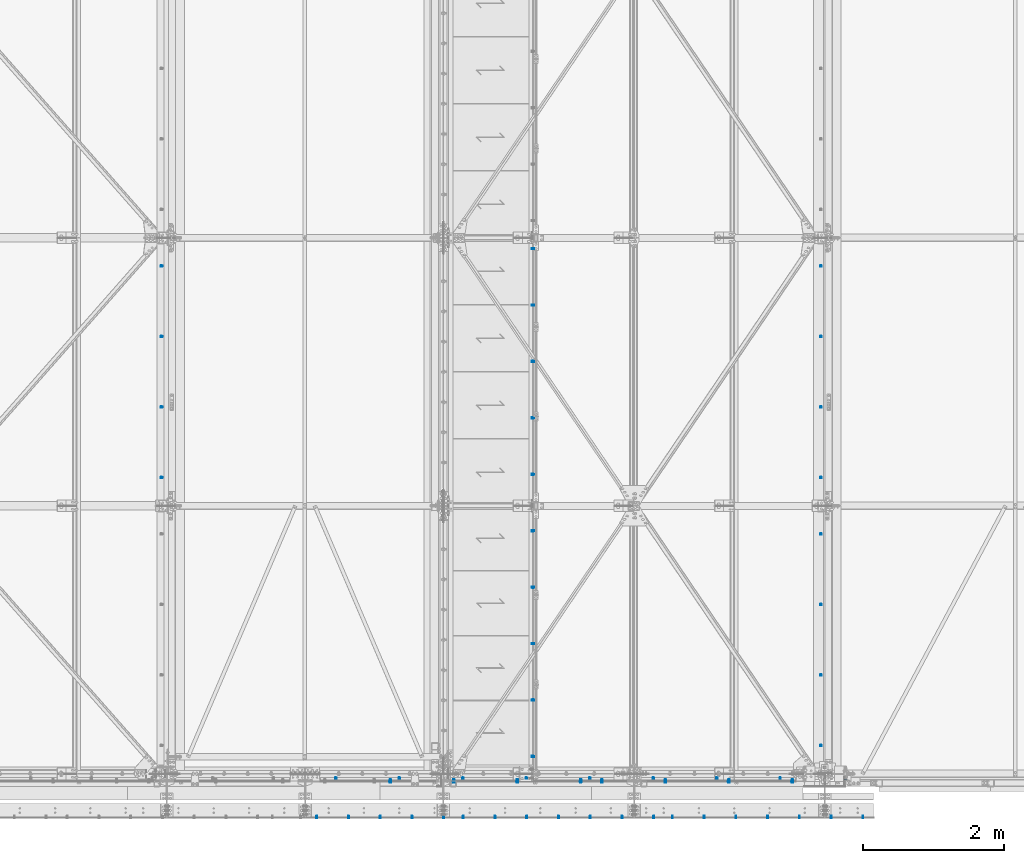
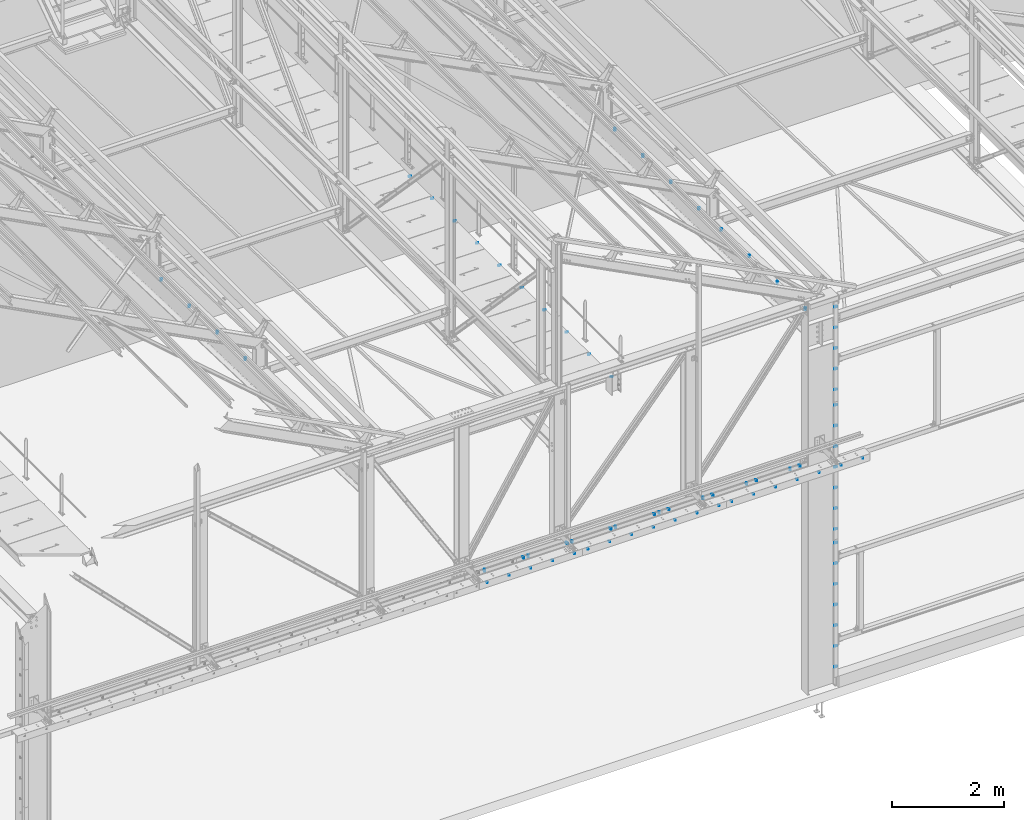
# One storey, part 135 of 362: 13 mechanical fasteners.
"""IFC2X3 building model written with IfcOpenShell, lengths in millimetres."""

from ifc_helpers import new_model, si_unit, frame, frame_2d, origin_with_axes, origin_2d_with_axis, place, context, subcontext, project, spatial, polyline, circle_curve, parameter, trimmed, segment, composite_curve, circle, outline, extrude, source, transform, mapped, material, type_object, element, save


model = new_model("IFC2X3")

# Units and contexts
model_context = context("Model", 3, precision=1e-05, world=origin_with_axes())
body_context = subcontext(model_context, "Body", "Model", "MODEL_VIEW")
ifc_project = project(units=[si_unit("LENGTHUNIT", "METRE", prefix="MILLI"), si_unit("AREAUNIT", "SQUARE_METRE"), si_unit("VOLUMEUNIT", "CUBIC_METRE"), si_unit("MASSUNIT", "GRAM", prefix="KILO"), si_unit("TIMEUNIT", "SECOND"), si_unit("PLANEANGLEUNIT", "RADIAN"), si_unit("SOLIDANGLEUNIT", "STERADIAN"), si_unit("THERMODYNAMICTEMPERATUREUNIT", "DEGREE_CELSIUS"), si_unit("LUMINOUSINTENSITYUNIT", "LUMEN")], contexts=[model_context])

# Site, building, storey
site_placement = place(None, origin_with_axes())
site = spatial("IfcSite", under=ifc_project, at=site_placement, Name="Undefined", CompositionType="ELEMENT")
building_placement = place(site_placement, origin_with_axes())
building = spatial("IfcBuilding", under=site, at=building_placement, Name="Undefined", CompositionType="ELEMENT")
storey_placement = place(building_placement, origin_with_axes())
storey = spatial("IfcBuildingStorey", under=building, at=storey_placement, Name="Undefined", CompositionType="ELEMENT", Elevation=0.0)

# Mechanical fasteners
ifc_material_1 = material(Name="6.8")
mechanical_fastener_type = type_object("IfcMechanicalFastenerType", Name="Bolt assembly")
shared_shape_1 = source(origin_with_axes(), body_context, "Body", "SweptSolid", [
    extrude(circle(Radius=5.0, at=origin_2d_with_axis()), frame((0.0, 0.1, 0.0), z_axis=(0.0, 1.0, 0.0), x_axis=(1.0, 0.0, 0.0)), (0.0, 0.0, 1.0), 4.0),
    extrude(circle(Radius=5.0, at=origin_2d_with_axis()), frame((0.0, 3.9, 0.0), z_axis=(0.0, 1.0, 0.0), x_axis=(1.0, 0.0, 0.0)), (0.0, 0.0, 1.0), 11.0),
    extrude(outline(polyline([(7.50555349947, 0.0), (3.752776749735, 6.50000000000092), (-3.752776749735, 6.50000000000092), (-7.50555349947, 0.0), (-3.752776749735, -6.50000000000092), (3.752776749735, -6.50000000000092), (7.50555349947, 0.0)])), frame((0.0, -5.5, 0.0), z_axis=(0.0, 1.0, 0.0), x_axis=(1.0, 0.0, 0.0)), (0.0, 0.0, 1.0), 5.5),
    extrude(circle(Radius=4.0, at=origin_2d_with_axis()), frame((0.0, 0.0, 0.0), z_axis=(0.0, 1.0, 0.0), x_axis=(1.0, 0.0, 0.0)), (0.0, 0.0, 1.0), 30.0),
    extrude(outline(polyline([(7.50555349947, 0.0), (3.752776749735, 6.50000000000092), (-3.752776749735, 6.50000000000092), (-7.50555349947, 0.0), (-3.752776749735, -6.50000000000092), (3.752776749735, -6.50000000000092), (7.50555349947, 0.0)])), frame((0.0, 14.9002807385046, 0.0), z_axis=(0.0, 1.0, 0.0), x_axis=(1.0, 0.0, 0.0)), (0.0, 0.0, 1.0), 6.8),
])
mechanical_fastener_1_placement = place(storey_placement, frame((22577.5000029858, -624.0, 5185.00175461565), z_axis=(-1.0, 0.0, 0.0), x_axis=(0.0, 0.0, 1.0)))
element("IfcMechanicalFastener", 1, at=mechanical_fastener_1_placement, inside=storey, type_object=mechanical_fastener_type, material=ifc_material_1, Name="Bolt assembly", NominalDiameter=8.0, NominalLength=30.0, context=body_context, shape_type="MappedRepresentation", body=[
    mapped(shared_shape_1, transform((0.0, 0.0, -900.0))),
    mapped(shared_shape_1, transform((0.0, 0.0, -450.0))),
    mapped(shared_shape_1, transform((0.0, 0.0, 0.0))),
    mapped(shared_shape_1, transform((0.0, 0.0, 450.0))),
    mapped(shared_shape_1, transform((0.0, 0.0, 900.0))),
])
shared_shape_2 = source(origin_with_axes(), body_context, "Body", "SweptSolid", [
    extrude(circle(Radius=5.0, at=origin_2d_with_axis()), frame((0.0, 0.1, 0.0), z_axis=(0.0, 1.0, 0.0), x_axis=(1.0, 0.0, 0.0)), (0.0, 0.0, 1.0), 4.0),
    extrude(circle(Radius=5.0, at=origin_2d_with_axis()), frame((0.0, 3.9, 0.0), z_axis=(0.0, 1.0, 0.0), x_axis=(1.0, 0.0, 0.0)), (0.0, 0.0, 1.0), 11.0),
    extrude(outline(polyline([(7.50555349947, 0.0), (3.752776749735, 6.50000000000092), (-3.752776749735, 6.50000000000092), (-7.50555349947, 0.0), (-3.752776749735, -6.50000000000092), (3.752776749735, -6.50000000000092), (7.50555349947, 0.0)])), frame((0.0, -5.5, 0.0), z_axis=(0.0, 1.0, 0.0), x_axis=(1.0, 0.0, 0.0)), (0.0, 0.0, 1.0), 5.5),
    extrude(circle(Radius=4.0, at=origin_2d_with_axis()), frame((0.0, 0.0, 0.0), z_axis=(0.0, 1.0, 0.0), x_axis=(1.0, 0.0, 0.0)), (0.0, 0.0, 1.0), 30.0),
    extrude(outline(polyline([(7.50555349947, 0.0), (3.752776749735, 6.50000000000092), (-3.752776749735, 6.50000000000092), (-7.50555349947, 0.0), (-3.752776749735, -6.50000000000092), (3.752776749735, -6.50000000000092), (7.50555349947, 0.0)])), frame((0.0, 14.9, 0.0), z_axis=(0.0, 1.0, 0.0), x_axis=(1.0, 0.0, 0.0)), (0.0, 0.0, 1.0), 6.8),
])
for number, where, z_axis, x_axis, name in (
    (2, (25105.0000089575, -624.0, 5184.99824538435), (-1.0, 0.0, 0.0), (0.0, 0.0, 1.0), "Bolt assembly"),
    (3, (28070.0000029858, -624.0, 5184.99824538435), (-1.0, 0.0, 0.0), (0.0, 0.0, 1.0), "Bolt assembly"),
):
    element("IfcMechanicalFastener", number, at=place(storey_placement, frame(where, z_axis=z_axis, x_axis=x_axis)), inside=storey, type_object=mechanical_fastener_type, material=ifc_material_1, Name=name, NominalDiameter=8.0, NominalLength=30.0, context=body_context, shape_type="MappedRepresentation", body=[
        mapped(shared_shape_2, transform((0.0, 0.0, -1350.0))),
        mapped(shared_shape_2, transform((0.0, 0.0, -900.0))),
        mapped(shared_shape_2, transform((0.0, 0.0, -450.0))),
        mapped(shared_shape_2, transform((0.0, 0.0, 0.0))),
        mapped(shared_shape_2, transform((0.0, 0.0, 450.0))),
        mapped(shared_shape_2, transform((0.0, 0.0, 900.0))),
        mapped(shared_shape_2, transform((0.0, 0.0, 1350.0))),
    ])
ifc_material_2 = material(Name="6.8-SB-ZINGUE")
shared_shape_3 = source(origin_with_axes(), body_context, "Body", "SweptSolid", [
    extrude(circle(Radius=7.0, at=origin_2d_with_axis()), frame((0.0, -9.90077615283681, 0.0), z_axis=(0.0, 1.0, 0.0), x_axis=(1.0, 0.0, 0.0)), (0.0, 0.0, 1.0), 10.0),
    extrude(circle(Radius=7.0, at=origin_2d_with_axis()), frame((0.0, -0.100011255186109, 0.0), z_axis=(0.0, 1.0, 0.0), x_axis=(1.0, 0.0, 0.0)), (0.0, 0.0, 1.0), 7.1),
    extrude(outline(polyline([(10.39230484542, 0.0), (5.19615242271, 9.00000000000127), (-5.19615242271, 9.00000000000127), (-10.39230484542, 0.0), (-5.19615242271, -9.00000000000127), (5.19615242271, -9.00000000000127), (10.39230484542, 0.0)])), frame((0.0, -17.9207761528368, 0.0), z_axis=(0.0, 1.0, 0.0), x_axis=(1.0, 0.0, 0.0)), (0.0, 0.0, 1.0), 7.92),
    extrude(circle(Radius=6.0, at=origin_2d_with_axis()), frame((0.0, -10.0007761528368, 0.0), z_axis=(0.0, 1.0, 0.0), x_axis=(1.0, 0.0, 0.0)), (0.0, 0.0, 1.0), 40.0),
    extrude(outline(polyline([(11.5008173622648, 0.0), (5.7504086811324, 9.96000000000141), (-5.7504086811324, 9.96000000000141), (-11.5008173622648, 0.0), (-5.7504086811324, -9.96000000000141), (5.7504086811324, -9.96000000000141), (11.5008173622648, 0.0)])), frame((0.0, 7.0, 0.0), z_axis=(0.0, 1.0, 0.0), x_axis=(1.0, 0.0, 0.0)), (0.0, 0.0, 1.0), 7.92),
])
mechanical_fastener_2_placement = place(storey_placement, frame((25097.500629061, -59.9984678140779, 5010.00085614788), z_axis=(-1.0, 0.0, 0.0), x_axis=(0.0, -1.0, 0.0)))
element("IfcMechanicalFastener", 4, at=mechanical_fastener_2_placement, inside=storey, type_object=mechanical_fastener_type, material=ifc_material_2, Name="Bolt assembly", NominalDiameter=12.0, NominalLength=40.0, context=body_context, shape_type="MappedRepresentation", body=[
    mapped(shared_shape_3, transform((0.0, 0.0, -3150.0))),
    mapped(shared_shape_3, transform((0.0, 0.0, -2250.0))),
    mapped(shared_shape_3, transform((0.0, 0.0, -1350.0))),
    mapped(shared_shape_3, transform((0.0, 0.0, -450.0))),
    mapped(shared_shape_3, transform((0.0, 0.0, 450.0))),
    mapped(shared_shape_3, transform((0.0, 0.0, 1350.0))),
    mapped(shared_shape_3, transform((0.0, 0.0, 2250.0))),
    mapped(shared_shape_3, transform((0.0, 0.0, 3150.0))),
])
ifc_material_3 = material(Name="8.8-SB-ZINGUE")
shared_shape_4 = source(origin_with_axes(), body_context, "Body", "SweptSolid", [
    extrude(circle(Radius=7.0, at=origin_2d_with_axis()), frame((0.0, -0.0984788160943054, 0.0), z_axis=(0.0, 1.0, 0.0), x_axis=(1.0, 0.0, 0.0)), (0.0, 0.0, 1.0), 7.1),
    extrude(circle(Radius=7.0, at=origin_2d_with_axis()), frame((0.0, -10.0000010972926, 0.0), z_axis=(0.0, 1.0, 0.0), x_axis=(1.0, 0.0, 0.0)), (0.0, 0.0, 1.0), 10.0),
    extrude(outline(composite_curve([segment(polyline([(7.0, 7.0), (7.0, -7.0)]), True, "CONTINUOUS"), segment(trimmed(circle_curve(frame_2d((0.0, -7.0), x_axis=(1.0, 0.0)), 7.0), [parameter(0.0)], [parameter(3.14159265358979)], False, "PARAMETER"), True, "CONTINUOUS"), segment(polyline([(-7.0, -7.0), (-7.0, 7.0)]), True, "CONTINUOUS"), segment(trimmed(circle_curve(frame_2d((0.0, 7.0), x_axis=(-1.0, 0.0)), 7.0), [parameter(0.0)], [parameter(3.14159265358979)], False, "PARAMETER"), True, "DISCONTINUOUS")], self_intersect=False)), frame((0.0, -12.9000010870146, 0.0), z_axis=(0.0, 1.0, 0.0), x_axis=(1.0, 0.0, 0.0)), (0.0, 0.0, 1.0), 3.0),
    extrude(outline(polyline([(10.39230484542, 0.0), (5.19615242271, 9.00000000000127), (-5.19615242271, 9.00000000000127), (-10.39230484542, 0.0), (-5.19615242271, -9.00000000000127), (5.19615242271, -9.00000000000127), (10.39230484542, 0.0)])), frame((0.0, -24.8800010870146, 0.0), z_axis=(0.0, 1.0, 0.0), x_axis=(1.0, 0.0, 0.0)), (0.0, 0.0, 1.0), 7.92),
    extrude(circle(Radius=6.0, at=origin_2d_with_axis()), frame((0.0, -16.9600010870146, 0.0), z_axis=(0.0, 1.0, 0.0), x_axis=(1.0, 0.0, 0.0)), (0.0, 0.0, 1.0), 40.0),
    extrude(circle(Radius=10.8, at=origin_2d_with_axis()), frame((0.0, -16.9600010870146, 0.0), z_axis=(0.0, 1.0, 0.0), x_axis=(1.0, 0.0, 0.0)), (0.0, 0.0, 1.0), 3.96),
    extrude(outline(polyline([(11.5008173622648, 0.0), (5.7504086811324, 9.96000000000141), (-5.7504086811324, 9.96000000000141), (-11.5008173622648, 0.0), (-5.7504086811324, -9.96000000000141), (5.7504086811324, -9.96000000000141), (11.5008173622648, 0.0)])), frame((0.0, 7.00152118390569, 0.0), z_axis=(0.0, 1.0, 0.0), x_axis=(1.0, 0.0, 0.0)), (0.0, 0.0, 1.0), 7.92),
])
mechanical_fastener_3_placement = place(storey_placement, frame((24070.0, -99.9999976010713, 5050.00085614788), z_axis=(1.0, 0.0, 0.0), x_axis=(0.0, 0.0, -1.0)))
element("IfcMechanicalFastener", 5, at=mechanical_fastener_3_placement, inside=storey, type_object=mechanical_fastener_type, material=ifc_material_3, Name="Bolt assembly", NominalDiameter=12.0, NominalLength=40.0, context=body_context, shape_type="MappedRepresentation", body=[
    mapped(shared_shape_4, transform((0.0, 0.0, -1350.0))),
    mapped(shared_shape_4, transform((0.0, 0.0, -450.0))),
    mapped(shared_shape_4, transform((0.0, 0.0, 450.0))),
    mapped(shared_shape_4, transform((0.0, 0.0, 1350.0))),
])
shared_shape_5 = source(origin_with_axes(), body_context, "Body", "SweptSolid", [
    extrude(circle(Radius=7.0, at=origin_2d_with_axis()), frame((0.0, -0.0984788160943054, 0.0), z_axis=(0.0, 1.0, 0.0), x_axis=(1.0, 0.0, 0.0)), (0.0, 0.0, 1.0), 7.1),
    extrude(circle(Radius=7.0, at=origin_2d_with_axis()), frame((0.0, -10.0000010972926, 0.0), z_axis=(0.0, 1.0, 0.0), x_axis=(1.0, 0.0, 0.0)), (0.0, 0.0, 1.0), 10.0),
    extrude(outline(composite_curve([segment(polyline([(7.0, 7.0), (7.0, -7.0)]), True, "CONTINUOUS"), segment(trimmed(circle_curve(frame_2d((0.0, -7.0), x_axis=(1.0, 0.0)), 7.0), [parameter(0.0)], [parameter(3.14159265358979)], False, "PARAMETER"), True, "CONTINUOUS"), segment(polyline([(-7.0, -7.0), (-7.0, 7.0)]), True, "CONTINUOUS"), segment(trimmed(circle_curve(frame_2d((0.0, 7.0), x_axis=(-1.0, 0.0)), 7.0), [parameter(0.0)], [parameter(3.14159265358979)], False, "PARAMETER"), True, "DISCONTINUOUS")], self_intersect=False)), frame((0.0, -12.9000010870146, 0.0), z_axis=(0.0, 1.0, 0.0), x_axis=(1.0, 0.0, 0.0)), (0.0, 0.0, 1.0), 3.0),
    extrude(outline(polyline([(10.39230484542, 0.0), (5.19615242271, 9.00000000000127), (-5.19615242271, 9.00000000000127), (-10.39230484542, 0.0), (-5.19615242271, -9.00000000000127), (5.19615242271, -9.00000000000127), (10.39230484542, 0.0)])), frame((0.0, -24.8800010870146, 0.0), z_axis=(0.0, 1.0, 0.0), x_axis=(1.0, 0.0, 0.0)), (0.0, 0.0, 1.0), 7.92),
    extrude(circle(Radius=6.0, at=origin_2d_with_axis()), frame((0.0, -16.9600010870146, 0.0), z_axis=(0.0, 1.0, 0.0), x_axis=(1.0, 0.0, 0.0)), (0.0, 0.0, 1.0), 40.0),
    extrude(circle(Radius=10.8, at=origin_2d_with_axis()), frame((0.0, -16.9600010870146, 0.0), z_axis=(0.0, 1.0, 0.0), x_axis=(1.0, 0.0, 0.0)), (0.0, 0.0, 1.0), 3.96),
    extrude(outline(polyline([(11.5008173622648, 0.0), (5.7504086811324, 9.96000000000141), (-5.7504086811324, 9.96000000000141), (-11.5008173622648, 0.0), (-5.7504086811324, -9.96000000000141), (5.7504086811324, -9.96000000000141), (11.5008173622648, 0.0)])), frame((0.0, 7.00152118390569, 0.0), z_axis=(0.0, 1.0, 0.0), x_axis=(1.0, 0.0, 0.0)), (0.0, 0.0, 1.0), 7.92),
])
mechanical_fastener_4_placement = place(storey_placement, frame((27070.0, -100.000000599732, 5050.00085614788), z_axis=(1.0, 0.0, 0.0), x_axis=(0.0, 0.0, -1.0)))
element("IfcMechanicalFastener", 6, at=mechanical_fastener_4_placement, inside=storey, type_object=mechanical_fastener_type, material=ifc_material_3, Name="Bolt assembly", NominalDiameter=12.0, NominalLength=40.0, context=body_context, shape_type="MappedRepresentation", body=[
    mapped(shared_shape_5, transform((0.0, 0.0, -1350.0))),
    mapped(shared_shape_5, transform((0.0, 0.0, -450.0))),
    mapped(shared_shape_5, transform((0.0, 0.0, 450.0))),
    mapped(shared_shape_5, transform((0.0, 0.0, 1350.0))),
])
shared_shape_6 = source(origin_with_axes(), body_context, "Body", "SweptSolid", [
    extrude(circle(Radius=7.0, at=origin_2d_with_axis()), frame((0.0, -0.10007666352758, 0.0), z_axis=(0.0, 1.0, 0.0), x_axis=(1.0, 0.0, 0.0)), (0.0, 0.0, 1.0), 19.1),
    extrude(circle(Radius=7.0, at=origin_2d_with_axis()), frame((0.0, -4.90000000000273, 0.0), z_axis=(0.0, 1.0, 0.0), x_axis=(1.0, 0.0, 0.0)), (0.0, 0.0, 1.0), 5.0),
    extrude(outline(polyline([(10.39230484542, 0.0), (5.19615242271, 9.00000000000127), (-5.19615242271, 9.00000000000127), (-10.39230484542, 0.0), (-5.19615242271, -9.00000000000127), (5.19615242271, -9.00000000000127), (10.39230484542, 0.0)])), frame((0.0, -12.9200004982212, 0.0), z_axis=(0.0, 1.0, 0.0), x_axis=(1.0, 0.0, 0.0)), (0.0, 0.0, 1.0), 7.92),
    extrude(circle(Radius=6.0, at=origin_2d_with_axis()), frame((0.0, -5.00000000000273, 0.0), z_axis=(0.0, 1.0, 0.0), x_axis=(1.0, 0.0, 0.0)), (0.0, 0.0, 1.0), 40.0),
    extrude(outline(polyline([(11.5008173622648, 0.0), (5.7504086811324, 9.96000000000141), (-5.7504086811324, 9.96000000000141), (-11.5008173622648, 0.0), (-5.7504086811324, -9.96000000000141), (5.7504086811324, -9.96000000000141), (11.5008173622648, 0.0)])), frame((0.0, 18.999906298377, 0.0), z_axis=(0.0, 1.0, 0.0), x_axis=(1.0, 0.0, 0.0)), (0.0, 0.0, 1.0), 7.92),
])
mechanical_fastener_5_placement = place(storey_placement, frame((29160.9999991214, -80.0000056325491, 7340.00001636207), z_axis=(0.0, 0.0, 1.0), x_axis=(0.0, -1.0, 0.0)))
element("IfcMechanicalFastener", 7, at=mechanical_fastener_5_placement, inside=storey, type_object=mechanical_fastener_type, material=ifc_material_3, Name="Bolt assembly", NominalDiameter=12.0, NominalLength=40.0, context=body_context, shape_type="MappedRepresentation", body=[
    mapped(shared_shape_6, transform((0.0, 0.0, 900.0))),
    mapped(shared_shape_6, transform((0.0, 0.0, 450.0))),
    mapped(shared_shape_6, transform((0.0, 0.0, 0.0))),
    mapped(shared_shape_6, transform((0.0, 0.0, -450.0))),
    mapped(shared_shape_6, transform((0.0, 0.0, -900.0))),
])
shared_shape_7 = source(origin_with_axes(), body_context, "Body", "SweptSolid", [
    extrude(circle(Radius=7.0, at=origin_2d_with_axis()), frame((0.0, -0.100793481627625, 0.0), z_axis=(0.0, 1.0, 0.0), x_axis=(1.0, 0.0, 0.0)), (0.0, 0.0, 1.0), 19.1),
    extrude(circle(Radius=7.0, at=origin_2d_with_axis()), frame((0.0, -4.90000000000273, 0.0), z_axis=(0.0, 1.0, 0.0), x_axis=(1.0, 0.0, 0.0)), (0.0, 0.0, 1.0), 5.0),
    extrude(outline(polyline([(10.39230484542, 0.0), (5.19615242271, 9.00000000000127), (-5.19615242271, 9.00000000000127), (-10.39230484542, 0.0), (-5.19615242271, -9.00000000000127), (5.19615242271, -9.00000000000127), (10.39230484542, 0.0)])), frame((0.0, -12.9200004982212, 0.0), z_axis=(0.0, 1.0, 0.0), x_axis=(1.0, 0.0, 0.0)), (0.0, 0.0, 1.0), 7.92),
    extrude(circle(Radius=6.0, at=origin_2d_with_axis()), frame((0.0, -5.00000000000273, 0.0), z_axis=(0.0, 1.0, 0.0), x_axis=(1.0, 0.0, 0.0)), (0.0, 0.0, 1.0), 40.0),
    extrude(outline(polyline([(11.5008173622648, 0.0), (5.7504086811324, 9.96000000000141), (-5.7504086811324, 9.96000000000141), (-11.5008173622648, 0.0), (-5.7504086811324, -9.96000000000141), (5.7504086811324, -9.96000000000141), (11.5008173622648, 0.0)])), frame((0.0, 18.999206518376, 0.0), z_axis=(0.0, 1.0, 0.0), x_axis=(1.0, 0.0, 0.0)), (0.0, 0.0, 1.0), 7.92),
])
mechanical_fastener_6_placement = place(storey_placement, frame((29160.9999991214, -79.9999994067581, 4750.00001552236), z_axis=(0.0, 0.0, 1.0), x_axis=(0.0, -1.0, 0.0)))
element("IfcMechanicalFastener", 8, at=mechanical_fastener_6_placement, inside=storey, type_object=mechanical_fastener_type, material=ifc_material_3, Name="Bolt assembly", NominalDiameter=12.0, NominalLength=40.0, context=body_context, shape_type="MappedRepresentation", body=[
    mapped(shared_shape_7, transform((0.0, 0.0, 1350.0))),
    mapped(shared_shape_7, transform((0.0, 0.0, 900.0))),
    mapped(shared_shape_7, transform((0.0, 0.0, 450.0))),
    mapped(shared_shape_7, transform((0.0, 0.0, 0.0))),
    mapped(shared_shape_7, transform((0.0, 0.0, -450.0))),
    mapped(shared_shape_7, transform((0.0, 0.0, -900.0))),
    mapped(shared_shape_7, transform((0.0, 0.0, -1350.0))),
])
shared_shape_8 = source(origin_with_axes(), body_context, "Body", "SweptSolid", [
    extrude(circle(Radius=7.0, at=origin_2d_with_axis()), frame((0.0, -0.10176059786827, 0.0), z_axis=(0.0, 1.0, 0.0), x_axis=(1.0, 0.0, 0.0)), (0.0, 0.0, 1.0), 19.1),
    extrude(circle(Radius=7.0, at=origin_2d_with_axis()), frame((0.0, -4.90000000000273, 0.0), z_axis=(0.0, 1.0, 0.0), x_axis=(1.0, 0.0, 0.0)), (0.0, 0.0, 1.0), 5.0),
    extrude(outline(polyline([(10.39230484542, 0.0), (5.19615242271, 9.00000000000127), (-5.19615242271, 9.00000000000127), (-10.39230484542, 0.0), (-5.19615242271, -9.00000000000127), (5.19615242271, -9.00000000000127), (10.39230484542, 0.0)])), frame((0.0, -12.9200004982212, 0.0), z_axis=(0.0, 1.0, 0.0), x_axis=(1.0, 0.0, 0.0)), (0.0, 0.0, 1.0), 7.92),
    extrude(circle(Radius=6.0, at=origin_2d_with_axis()), frame((0.0, -5.00000000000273, 0.0), z_axis=(0.0, 1.0, 0.0), x_axis=(1.0, 0.0, 0.0)), (0.0, 0.0, 1.0), 40.0),
    extrude(outline(polyline([(11.5008173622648, 0.0), (5.7504086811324, 9.96000000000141), (-5.7504086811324, 9.96000000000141), (-11.5008173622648, 0.0), (-5.7504086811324, -9.96000000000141), (5.7504086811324, -9.96000000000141), (11.5008173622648, 0.0)])), frame((0.0, 18.998225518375, 0.0), z_axis=(0.0, 1.0, 0.0), x_axis=(1.0, 0.0, 0.0)), (0.0, 0.0, 1.0), 7.92),
])
mechanical_fastener_7_placement = place(storey_placement, frame((29160.9999991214, -79.9999993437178, 1750.00001560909), z_axis=(0.0, 0.0, 1.0), x_axis=(0.0, -1.0, 0.0)))
element("IfcMechanicalFastener", 9, at=mechanical_fastener_7_placement, inside=storey, type_object=mechanical_fastener_type, material=ifc_material_3, Name="Bolt assembly", NominalDiameter=12.0, NominalLength=40.0, context=body_context, shape_type="MappedRepresentation", body=[
    mapped(shared_shape_8, transform((0.0, 0.0, 1350.0))),
    mapped(shared_shape_8, transform((0.0, 0.0, 900.0))),
    mapped(shared_shape_8, transform((0.0, 0.0, 450.0))),
    mapped(shared_shape_8, transform((0.0, 0.0, 0.0))),
    mapped(shared_shape_8, transform((0.0, 0.0, -450.0))),
    mapped(shared_shape_8, transform((0.0, 0.0, -900.0))),
    mapped(shared_shape_8, transform((0.0, 0.0, -1350.0))),
])
ifc_material_4 = material(Name="#_SB-8.8-ZINGUE")
shared_shape_9 = source(origin_with_axes(), body_context, "Body", "SweptSolid", [
    extrude(circle(Radius=7.0, at=origin_2d_with_axis()), frame((0.0, -0.100011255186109, 0.0), z_axis=(0.0, 1.0, 0.0), x_axis=(1.0, 0.0, 0.0)), (0.0, 0.0, 1.0), 17.3),
    extrude(outline(composite_curve([segment(polyline([(-7.0, 7.0), (7.0, 7.0)]), True, "CONTINUOUS"), segment(trimmed(circle_curve(frame_2d((7.0, 0.0), x_axis=(0.0, 1.0)), 7.0), [parameter(0.0)], [parameter(3.14159265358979)], False, "PARAMETER"), True, "CONTINUOUS"), segment(polyline([(7.0, -7.0), (-7.0, -7.0)]), True, "CONTINUOUS"), segment(trimmed(circle_curve(frame_2d((-7.0, 0.0), x_axis=(0.0, -1.0)), 7.0), [parameter(0.0)], [parameter(3.14159265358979)], False, "PARAMETER"), True, "DISCONTINUOUS")], self_intersect=False)), frame((0.0, -1.90048839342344, 0.0), z_axis=(0.0, 1.0, 0.0), x_axis=(1.0, 0.0, 0.0)), (0.0, 0.0, 1.0), 2.0),
    extrude(outline(polyline([(10.39230484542, 0.0), (5.19615242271, 9.00000000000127), (-5.19615242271, 9.00000000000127), (-10.39230484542, 0.0), (-5.19615242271, -9.00000000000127), (5.19615242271, -9.00000000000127), (10.39230484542, 0.0)])), frame((0.0, -13.8804883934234, 0.0), z_axis=(0.0, 1.0, 0.0), x_axis=(1.0, 0.0, 0.0)), (0.0, 0.0, 1.0), 7.92),
    extrude(circle(Radius=6.0, at=origin_2d_with_axis()), frame((0.0, -5.96048839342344, 0.0), z_axis=(0.0, 1.0, 0.0), x_axis=(1.0, 0.0, 0.0)), (0.0, 0.0, 1.0), 40.0),
    extrude(circle(Radius=10.8, at=origin_2d_with_axis()), frame((0.0, -5.96048839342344, 0.0), z_axis=(0.0, 1.0, 0.0), x_axis=(1.0, 0.0, 0.0)), (0.0, 0.0, 1.0), 3.96),
    extrude(outline(polyline([(11.5008173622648, 0.0), (5.7504086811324, 9.96000000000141), (-5.7504086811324, 9.96000000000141), (-11.5008173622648, 0.0), (-5.7504086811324, -9.96000000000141), (5.7504086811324, -9.96000000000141), (11.5008173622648, 0.0)])), frame((0.0, 17.2000007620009, 0.0), z_axis=(0.0, 1.0, 0.0), x_axis=(1.0, 0.0, 0.0)), (0.0, 0.0, 1.0), 7.92),
])
mechanical_fastener_8_placement = place(storey_placement, frame((28825.0, 1899.68552407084, 7990.29997744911), z_axis=(0.0, -0.999506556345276, 0.031410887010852), x_axis=(-1.0, 0.0, 0.0)))
element("IfcMechanicalFastener", 10, at=mechanical_fastener_8_placement, inside=storey, type_object=mechanical_fastener_type, material=ifc_material_4, Name="Bolt assembly", NominalDiameter=12.0, NominalLength=40.0, context=body_context, shape_type="MappedRepresentation", body=[
    mapped(shared_shape_9, transform((0.0, 6.70297595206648e-10, -1499.99999999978))),
    mapped(shared_shape_9, transform((0.0, 2.2373569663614e-10, -499.999999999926))),
    mapped(shared_shape_9, transform((0.0, -2.2373569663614e-10, 499.999999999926))),
    mapped(shared_shape_9, transform((0.0, -6.71207089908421e-10, 1499.99999999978))),
])
shared_shape_10 = source(origin_with_axes(), body_context, "Body", "SweptSolid", [
    extrude(circle(Radius=7.0, at=origin_2d_with_axis()), frame((0.0, -0.100011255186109, 0.0), z_axis=(0.0, 1.0, 0.0), x_axis=(1.0, 0.0, 0.0)), (0.0, 0.0, 1.0), 17.3),
    extrude(outline(composite_curve([segment(polyline([(-7.0, 7.0), (7.0, 7.0)]), True, "CONTINUOUS"), segment(trimmed(circle_curve(frame_2d((7.0, 0.0), x_axis=(0.0, 1.0)), 7.0), [parameter(0.0)], [parameter(3.14159265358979)], False, "PARAMETER"), True, "CONTINUOUS"), segment(polyline([(7.0, -7.0), (-7.0, -7.0)]), True, "CONTINUOUS"), segment(trimmed(circle_curve(frame_2d((-7.0, 0.0), x_axis=(0.0, -1.0)), 7.0), [parameter(0.0)], [parameter(3.14159265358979)], False, "PARAMETER"), True, "DISCONTINUOUS")], self_intersect=False)), frame((0.0, -1.90048839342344, 0.0), z_axis=(0.0, 1.0, 0.0), x_axis=(1.0, 0.0, 0.0)), (0.0, 0.0, 1.0), 2.0),
    extrude(outline(polyline([(10.39230484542, 0.0), (5.19615242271, 9.00000000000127), (-5.19615242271, 9.00000000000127), (-10.39230484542, 0.0), (-5.19615242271, -9.00000000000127), (5.19615242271, -9.00000000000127), (10.39230484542, 0.0)])), frame((0.0, -13.8804883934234, 0.0), z_axis=(0.0, 1.0, 0.0), x_axis=(1.0, 0.0, 0.0)), (0.0, 0.0, 1.0), 7.92),
    extrude(circle(Radius=6.0, at=origin_2d_with_axis()), frame((0.0, -5.96048839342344, 0.0), z_axis=(0.0, 1.0, 0.0), x_axis=(1.0, 0.0, 0.0)), (0.0, 0.0, 1.0), 40.0),
    extrude(circle(Radius=10.8, at=origin_2d_with_axis()), frame((0.0, -5.96048839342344, 0.0), z_axis=(0.0, 1.0, 0.0), x_axis=(1.0, 0.0, 0.0)), (0.0, 0.0, 1.0), 3.96),
    extrude(outline(polyline([(11.5008173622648, 0.0), (5.7504086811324, 9.96000000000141), (-5.7504086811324, 9.96000000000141), (-11.5008173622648, 0.0), (-5.7504086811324, -9.96000000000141), (5.7504086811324, -9.96000000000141), (11.5008173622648, 0.0)])), frame((0.0, 17.2000007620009, 0.0), z_axis=(0.0, 1.0, 0.0), x_axis=(1.0, 0.0, 0.0)), (0.0, 0.0, 1.0), 7.92),
])
mechanical_fastener_9_placement = place(storey_placement, frame((28825.0, 5699.68553861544, 7870.88016628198), z_axis=(0.0, -0.999506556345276, 0.031410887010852), x_axis=(-1.0, 0.0, 0.0)))
element("IfcMechanicalFastener", 11, at=mechanical_fastener_9_placement, inside=storey, type_object=mechanical_fastener_type, material=ifc_material_4, Name="Bolt assembly", NominalDiameter=12.0, NominalLength=40.0, context=body_context, shape_type="MappedRepresentation", body=[
    mapped(shared_shape_10, transform((0.0, 6.70297595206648e-10, -1499.99999999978))),
    mapped(shared_shape_10, transform((0.0, 2.2373569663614e-10, -499.999999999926))),
    mapped(shared_shape_10, transform((0.0, -2.2373569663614e-10, 499.999999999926))),
    mapped(shared_shape_10, transform((0.0, -6.71207089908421e-10, 1499.99999999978))),
])
shared_shape_11 = source(origin_with_axes(), body_context, "Body", "SweptSolid", [
    extrude(circle(Radius=7.0, at=origin_2d_with_axis()), frame((0.0, -0.100011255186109, 0.0), z_axis=(0.0, 1.0, 0.0), x_axis=(1.0, 0.0, 0.0)), (0.0, 0.0, 1.0), 17.3),
    extrude(outline(composite_curve([segment(polyline([(-7.0, 7.0), (7.0, 7.0)]), True, "CONTINUOUS"), segment(trimmed(circle_curve(frame_2d((7.0, 0.0), x_axis=(0.0, 1.0)), 7.0), [parameter(0.0)], [parameter(3.14159265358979)], False, "PARAMETER"), True, "CONTINUOUS"), segment(polyline([(7.0, -7.0), (-7.0, -7.0)]), True, "CONTINUOUS"), segment(trimmed(circle_curve(frame_2d((-7.0, 0.0), x_axis=(0.0, -1.0)), 7.0), [parameter(0.0)], [parameter(3.14159265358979)], False, "PARAMETER"), True, "DISCONTINUOUS")], self_intersect=False)), frame((0.0, -1.90048839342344, 0.0), z_axis=(0.0, 1.0, 0.0), x_axis=(1.0, 0.0, 0.0)), (0.0, 0.0, 1.0), 2.0),
    extrude(outline(polyline([(10.39230484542, 0.0), (5.19615242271, 9.00000000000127), (-5.19615242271, 9.00000000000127), (-10.39230484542, 0.0), (-5.19615242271, -9.00000000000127), (5.19615242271, -9.00000000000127), (10.39230484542, 0.0)])), frame((0.0, -13.8804883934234, 0.0), z_axis=(0.0, 1.0, 0.0), x_axis=(1.0, 0.0, 0.0)), (0.0, 0.0, 1.0), 7.92),
    extrude(circle(Radius=6.0, at=origin_2d_with_axis()), frame((0.0, -5.96048839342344, 0.0), z_axis=(0.0, 1.0, 0.0), x_axis=(1.0, 0.0, 0.0)), (0.0, 0.0, 1.0), 40.0),
    extrude(circle(Radius=10.8, at=origin_2d_with_axis()), frame((0.0, -5.96048839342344, 0.0), z_axis=(0.0, 1.0, 0.0), x_axis=(1.0, 0.0, 0.0)), (0.0, 0.0, 1.0), 3.96),
    extrude(outline(polyline([(11.5008173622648, 0.0), (5.7504086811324, 9.96000000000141), (-5.7504086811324, 9.96000000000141), (-11.5008173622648, 0.0), (-5.7504086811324, -9.96000000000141), (5.7504086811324, -9.96000000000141), (11.5008173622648, 0.0)])), frame((0.0, 17.2000007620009, 0.0), z_axis=(0.0, 1.0, 0.0), x_axis=(1.0, 0.0, 0.0)), (0.0, 0.0, 1.0), 7.92),
])
mechanical_fastener_10_placement = place(storey_placement, frame((19475.0, 5699.68553858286, 7870.88016628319), z_axis=(0.0, -0.999506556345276, 0.031410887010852), x_axis=(-1.0, 0.0, 0.0)))
element("IfcMechanicalFastener", 12, at=mechanical_fastener_10_placement, inside=storey, type_object=mechanical_fastener_type, material=ifc_material_4, Name="Bolt assembly", NominalDiameter=12.0, NominalLength=40.0, context=body_context, shape_type="MappedRepresentation", body=[
    mapped(shared_shape_11, transform((0.0, 6.70297595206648e-10, -1499.99999999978))),
    mapped(shared_shape_11, transform((0.0, 2.2373569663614e-10, -499.999999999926))),
    mapped(shared_shape_11, transform((0.0, -2.2373569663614e-10, 499.999999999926))),
    mapped(shared_shape_11, transform((0.0, -6.71207089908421e-10, 1499.99999999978))),
])
shared_shape_12 = source(origin_with_axes(), body_context, "Body", "SweptSolid", [
    extrude(circle(Radius=7.0, at=origin_2d_with_axis()), frame((0.0, -5.00000000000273, 0.0), z_axis=(0.0, 1.0, 0.0), x_axis=(1.0, 0.0, 0.0)), (0.0, 0.0, 1.0), 5.1),
    extrude(outline(polyline([(10.39230484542, 0.0), (5.19615242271, 9.00000000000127), (-5.19615242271, 9.00000000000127), (-10.39230484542, 0.0), (-5.19615242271, -9.00000000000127), (5.19615242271, -9.00000000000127), (10.39230484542, 0.0)])), frame((0.0, -12.9200004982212, 0.0), z_axis=(0.0, 1.0, 0.0), x_axis=(1.0, 0.0, 0.0)), (0.0, 0.0, 1.0), 7.92),
    extrude(circle(Radius=6.0, at=origin_2d_with_axis()), frame((0.0, -5.00000000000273, 0.0), z_axis=(0.0, 1.0, 0.0), x_axis=(1.0, 0.0, 0.0)), (0.0, 0.0, 1.0), 30.0),
    extrude(outline(polyline([(11.5008173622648, 0.0), (5.7504086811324, 9.96000000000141), (-5.7504086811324, 9.96000000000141), (-11.5008173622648, 0.0), (-5.7504086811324, -9.96000000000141), (5.7504086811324, -9.96000000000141), (11.5008173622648, 0.0)])), frame((0.0, 0.0, 0.0), z_axis=(0.0, 1.0, 0.0), x_axis=(1.0, 0.0, 0.0)), (0.0, 0.0, 1.0), 7.92),
])
mechanical_fastener_11_placement = place(storey_placement, frame((24736.4916006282, 3845.00004471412, 8070.0), z_axis=(0.0, 1.0, 0.0), x_axis=(0.0, 0.0, 1.0)))
element("IfcMechanicalFastener", 13, at=mechanical_fastener_11_placement, inside=storey, type_object=mechanical_fastener_type, material=ifc_material_3, Name="Bolt assembly", NominalDiameter=12.0, NominalLength=30.0, context=body_context, shape_type="MappedRepresentation", body=[
    mapped(shared_shape_12, transform((0.0, 0.0, -3600.0))),
    mapped(shared_shape_12, transform((0.0, 0.0, -2800.0))),
    mapped(shared_shape_12, transform((0.0, 0.0, -2000.0))),
    mapped(shared_shape_12, transform((0.0, 0.0, -1200.0))),
    mapped(shared_shape_12, transform((0.0, 0.0, -400.0))),
    mapped(shared_shape_12, transform((0.0, 0.0, 400.0))),
    mapped(shared_shape_12, transform((0.0, 0.0, 1200.0))),
    mapped(shared_shape_12, transform((0.0, 0.0, 2000.0))),
    mapped(shared_shape_12, transform((0.0, 0.0, 2800.0))),
    mapped(shared_shape_12, transform((0.0, 0.0, 3600.0))),
])

save(model, "model.ifc")
